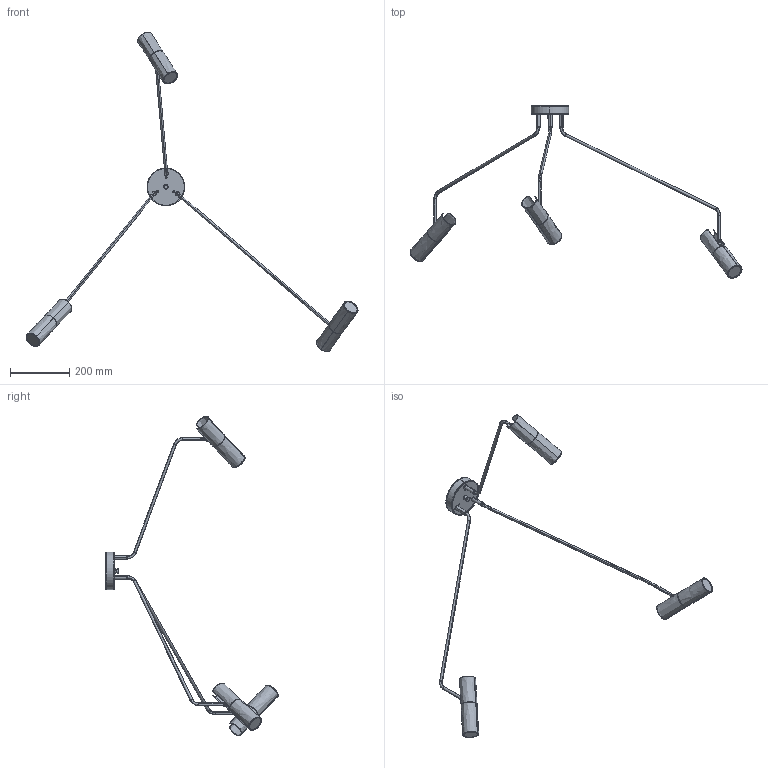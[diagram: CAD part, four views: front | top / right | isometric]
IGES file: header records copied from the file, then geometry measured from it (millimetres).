
Start section: SolidWorks IGES file using analytic representation for surfaces
Global section: file name: C:\Users\Asia\Desktop\Super Eye_6504,6491,6497.IGS; native system: SolidWorks 2016; preprocessor: SolidWorks 2016; author: Asia; date: 160803.113129; units: millimetre
Bounding box: 1117.63 x 579.92 x 1075.34 mm (x, y, z)
Surface area: 443463.4 mm2 (no closed solid volume)
Topology: 0 solids, 0 shells, 559 faces, 8535 edges, 8529 vertices
Faces by surface type: bspline 335, revolution 224
